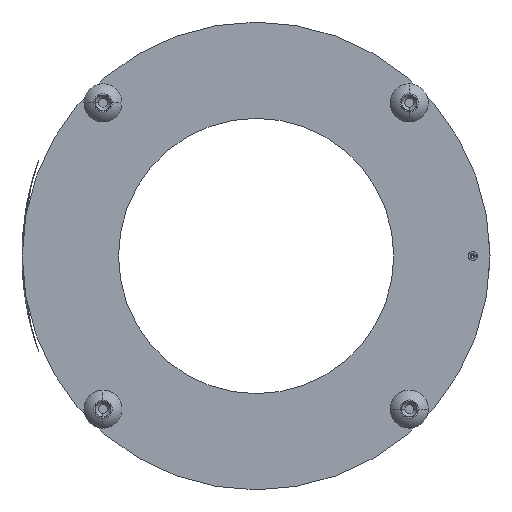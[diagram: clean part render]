
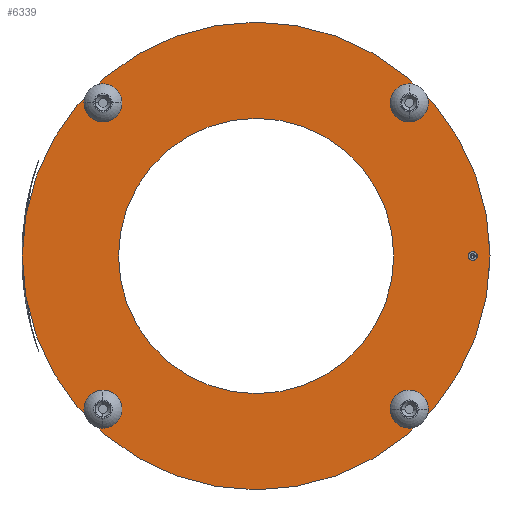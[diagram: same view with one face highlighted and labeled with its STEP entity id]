
A CAD part, front view. The second image highlights one B-rep face of the part: STEP entity #6339.
In plain terms, the highlighted planar face has unit normal (0, -1, 0).
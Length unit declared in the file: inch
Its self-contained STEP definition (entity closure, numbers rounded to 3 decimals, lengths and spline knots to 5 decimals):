
#17 = EDGE_LOOP ( 'NONE', ( #2376, #24653 ) ) ;
#132 = CARTESIAN_POINT ( 'NONE',  ( 1.20473, 0., 1.20473 ) ) ;
#343 = DIRECTION ( 'NONE',  ( 0., 0., 1. ) ) ;
#380 = DIRECTION ( 'NONE',  ( 0., 1., 0. ) ) ;
#681 = DIRECTION ( 'NONE',  ( 0., 0., 1. ) ) ;
#843 = FACE_BOUND ( 'NONE', #1786, .T. ) ;
#1023 = CIRCLE ( 'NONE', #10769, 0.035 ) ;
#1112 = VERTEX_POINT ( 'NONE', #1902 ) ;
#1281 = EDGE_CURVE ( 'NONE', #10226, #31593, #1320, .T. ) ;
#1320 = CIRCLE ( 'NONE', #5489, 0.06496 ) ;
#1659 = EDGE_CURVE ( 'NONE', #12579, #24339, #31341, .T. ) ;
#1786 = EDGE_LOOP ( 'NONE', ( #20445, #17311 ) ) ;
#1888 = CARTESIAN_POINT ( 'NONE',  ( 1.20473, 0., 1.26969 ) ) ;
#1902 = CARTESIAN_POINT ( 'NONE',  ( -1.20473, 0., -1.13977 ) ) ;
#2143 = ORIENTED_EDGE ( 'NONE', *, *, #7217, .F. ) ;
#2363 = AXIS2_PLACEMENT_3D ( 'NONE', #9667, #22170, #19403 ) ;
#2376 = ORIENTED_EDGE ( 'NONE', *, *, #4361, .T. ) ;
#2745 = VERTEX_POINT ( 'NONE', #24257 ) ;
#2972 = ORIENTED_EDGE ( 'NONE', *, *, #31825, .T. ) ;
#3062 = CIRCLE ( 'NONE', #29488, 1.84 ) ;
#3314 = AXIS2_PLACEMENT_3D ( 'NONE', #22669, #22569, #29941 ) ;
#3454 = DIRECTION ( 'NONE',  ( 0., 0., 1. ) ) ;
#3520 = FACE_BOUND ( 'NONE', #4265, .T. ) ;
#3672 = ORIENTED_EDGE ( 'NONE', *, *, #26829, .T. ) ;
#4187 = CARTESIAN_POINT ( 'NONE',  ( 1.20473, 0., 1.13977 ) ) ;
#4265 = EDGE_LOOP ( 'NONE', ( #17496, #3672 ) ) ;
#4361 = EDGE_CURVE ( 'NONE', #8643, #5671, #21711, .T. ) ;
#4721 = AXIS2_PLACEMENT_3D ( 'NONE', #13051, #25263, #681 ) ;
#4791 = DIRECTION ( 'NONE',  ( 0., -1., 0. ) ) ;
#5398 = CARTESIAN_POINT ( 'NONE',  ( -1.20473, 0., 1.20473 ) ) ;
#5424 = CIRCLE ( 'NONE', #3314, 0.06496 ) ;
#5489 = AXIS2_PLACEMENT_3D ( 'NONE', #18069, #8504, #3454 ) ;
#5662 = EDGE_CURVE ( 'NONE', #2745, #18713, #22779, .T. ) ;
#5671 = VERTEX_POINT ( 'NONE', #8939 ) ;
#5856 = EDGE_CURVE ( 'NONE', #5671, #8643, #24712, .T. ) ;
#5874 = FACE_BOUND ( 'NONE', #12513, .T. ) ;
#6281 = CARTESIAN_POINT ( 'NONE',  ( 1.70375, 0., 0.035 ) ) ;
#6339 = ADVANCED_FACE ( 'NONE', ( #843, #13151, #3520, #16225, #7399, #5874, #28925 ), #9772, .F. ) ;
#6729 = CARTESIAN_POINT ( 'NONE',  ( 1.70375, 0., -0.035 ) ) ;
#6986 = DIRECTION ( 'NONE',  ( 0., 0., 1. ) ) ;
#7217 = EDGE_CURVE ( 'NONE', #24947, #24829, #3062, .T. ) ;
#7399 = FACE_BOUND ( 'NONE', #15910, .T. ) ;
#8063 = EDGE_LOOP ( 'NONE', ( #18031, #23495 ) ) ;
#8504 = DIRECTION ( 'NONE',  ( 0., 1., 0. ) ) ;
#8643 = VERTEX_POINT ( 'NONE', #19396 ) ;
#8939 = CARTESIAN_POINT ( 'NONE',  ( -1.20473, 0., 1.13977 ) ) ;
#9268 = DIRECTION ( 'NONE',  ( 0., 0., 1. ) ) ;
#9300 = CIRCLE ( 'NONE', #15775, 1.083 ) ;
#9397 = EDGE_CURVE ( 'NONE', #24829, #24947, #14257, .T. ) ;
#9496 = CARTESIAN_POINT ( 'NONE',  ( 1.70375, 0., 0. ) ) ;
#9667 = CARTESIAN_POINT ( 'NONE',  ( 0., 0., 0. ) ) ;
#9769 = EDGE_CURVE ( 'NONE', #1112, #31562, #12343, .T. ) ;
#9772 = PLANE ( 'NONE',  #2363 ) ;
#10076 = CIRCLE ( 'NONE', #28735, 0.035 ) ;
#10226 = VERTEX_POINT ( 'NONE', #1888 ) ;
#10323 = AXIS2_PLACEMENT_3D ( 'NONE', #5398, #12693, #25108 ) ;
#10754 = AXIS2_PLACEMENT_3D ( 'NONE', #11644, #28833, #9268 ) ;
#10769 = AXIS2_PLACEMENT_3D ( 'NONE', #29283, #4791, #21618 ) ;
#11644 = CARTESIAN_POINT ( 'NONE',  ( 1.20473, 0., -1.20473 ) ) ;
#11727 = DIRECTION ( 'NONE',  ( 0., 0., 1. ) ) ;
#12077 = DIRECTION ( 'NONE',  ( 0., -1., 0. ) ) ;
#12343 = CIRCLE ( 'NONE', #30574, 0.06496 ) ;
#12513 = EDGE_LOOP ( 'NONE', ( #2972, #17300 ) ) ;
#12579 = VERTEX_POINT ( 'NONE', #12745 ) ;
#12693 = DIRECTION ( 'NONE',  ( 0., 1., 0. ) ) ;
#12745 = CARTESIAN_POINT ( 'NONE',  ( 0., 0., -1.083 ) ) ;
#13051 = CARTESIAN_POINT ( 'NONE',  ( -1.20473, 0., 1.20473 ) ) ;
#13151 = FACE_BOUND ( 'NONE', #17, .T. ) ;
#13543 = EDGE_CURVE ( 'NONE', #18713, #2745, #13855, .T. ) ;
#13646 = AXIS2_PLACEMENT_3D ( 'NONE', #132, #27086, #343 ) ;
#13855 = CIRCLE ( 'NONE', #25070, 0.06496 ) ;
#14180 = DIRECTION ( 'NONE',  ( 0., 1., 0. ) ) ;
#14257 = CIRCLE ( 'NONE', #20625, 1.84 ) ;
#14499 = DIRECTION ( 'NONE',  ( 0., 1., 0. ) ) ;
#14574 = ORIENTED_EDGE ( 'NONE', *, *, #17663, .T. ) ;
#15211 = VERTEX_POINT ( 'NONE', #6281 ) ;
#15681 = DIRECTION ( 'NONE',  ( 0., 0., 1. ) ) ;
#15775 = AXIS2_PLACEMENT_3D ( 'NONE', #29843, #380, #20015 ) ;
#15800 = EDGE_CURVE ( 'NONE', #15211, #27522, #1023, .T. ) ;
#15910 = EDGE_LOOP ( 'NONE', ( #20111, #14574 ) ) ;
#16225 = FACE_BOUND ( 'NONE', #8063, .T. ) ;
#16739 = CARTESIAN_POINT ( 'NONE',  ( 0., 0., 1.84 ) ) ;
#16827 = CARTESIAN_POINT ( 'NONE',  ( -1.20473, 0., -1.26969 ) ) ;
#16976 = CARTESIAN_POINT ( 'NONE',  ( 0., 0., 0. ) ) ;
#17300 = ORIENTED_EDGE ( 'NONE', *, *, #1659, .T. ) ;
#17311 = ORIENTED_EDGE ( 'NONE', *, *, #15800, .F. ) ;
#17496 = ORIENTED_EDGE ( 'NONE', *, *, #9769, .T. ) ;
#17651 = ORIENTED_EDGE ( 'NONE', *, *, #9397, .F. ) ;
#17663 = EDGE_CURVE ( 'NONE', #31593, #10226, #22787, .T. ) ;
#18031 = ORIENTED_EDGE ( 'NONE', *, *, #5662, .T. ) ;
#18069 = CARTESIAN_POINT ( 'NONE',  ( 1.20473, 0., 1.20473 ) ) ;
#18502 = CARTESIAN_POINT ( 'NONE',  ( 0., 0., 0. ) ) ;
#18713 = VERTEX_POINT ( 'NONE', #21063 ) ;
#18808 = CARTESIAN_POINT ( 'NONE',  ( 0., 0., -1.84 ) ) ;
#18837 = EDGE_CURVE ( 'NONE', #27522, #15211, #10076, .T. ) ;
#19052 = CARTESIAN_POINT ( 'NONE',  ( 0., 0., 1.083 ) ) ;
#19396 = CARTESIAN_POINT ( 'NONE',  ( -1.20473, 0., 1.26969 ) ) ;
#19403 = DIRECTION ( 'NONE',  ( 0., 0., 1. ) ) ;
#19459 = DIRECTION ( 'NONE',  ( 0., 0., -1. ) ) ;
#20015 = DIRECTION ( 'NONE',  ( 0., 0., 1. ) ) ;
#20111 = ORIENTED_EDGE ( 'NONE', *, *, #1281, .T. ) ;
#20445 = ORIENTED_EDGE ( 'NONE', *, *, #18837, .F. ) ;
#20625 = AXIS2_PLACEMENT_3D ( 'NONE', #18502, #25443, #15681 ) ;
#21063 = CARTESIAN_POINT ( 'NONE',  ( 1.20473, 0., -1.26969 ) ) ;
#21618 = DIRECTION ( 'NONE',  ( 0., 0., -1. ) ) ;
#21711 = CIRCLE ( 'NONE', #4721, 0.06496 ) ;
#21961 = DIRECTION ( 'NONE',  ( 0., 1., 0. ) ) ;
#22170 = DIRECTION ( 'NONE',  ( 0., 1., 0. ) ) ;
#22569 = DIRECTION ( 'NONE',  ( 0., 1., 0. ) ) ;
#22669 = CARTESIAN_POINT ( 'NONE',  ( -1.20473, 0., -1.20473 ) ) ;
#22779 = CIRCLE ( 'NONE', #10754, 0.06496 ) ;
#22787 = CIRCLE ( 'NONE', #13646, 0.06496 ) ;
#23495 = ORIENTED_EDGE ( 'NONE', *, *, #13543, .T. ) ;
#24257 = CARTESIAN_POINT ( 'NONE',  ( 1.20473, 0., -1.13977 ) ) ;
#24339 = VERTEX_POINT ( 'NONE', #19052 ) ;
#24653 = ORIENTED_EDGE ( 'NONE', *, *, #5856, .T. ) ;
#24712 = CIRCLE ( 'NONE', #10323, 0.06496 ) ;
#24829 = VERTEX_POINT ( 'NONE', #18808 ) ;
#24947 = VERTEX_POINT ( 'NONE', #16739 ) ;
#25070 = AXIS2_PLACEMENT_3D ( 'NONE', #30146, #25251, #27957 ) ;
#25108 = DIRECTION ( 'NONE',  ( 0., 0., 1. ) ) ;
#25251 = DIRECTION ( 'NONE',  ( 0., 1., 0. ) ) ;
#25263 = DIRECTION ( 'NONE',  ( 0., 1., 0. ) ) ;
#25443 = DIRECTION ( 'NONE',  ( 0., 1., 0. ) ) ;
#26699 = CARTESIAN_POINT ( 'NONE',  ( 0., 0., 0. ) ) ;
#26829 = EDGE_CURVE ( 'NONE', #31562, #1112, #5424, .T. ) ;
#26967 = EDGE_LOOP ( 'NONE', ( #17651, #2143 ) ) ;
#27086 = DIRECTION ( 'NONE',  ( 0., 1., 0. ) ) ;
#27522 = VERTEX_POINT ( 'NONE', #6729 ) ;
#27957 = DIRECTION ( 'NONE',  ( 0., 0., 1. ) ) ;
#28735 = AXIS2_PLACEMENT_3D ( 'NONE', #9496, #12077, #19459 ) ;
#28833 = DIRECTION ( 'NONE',  ( 0., 1., 0. ) ) ;
#28925 = FACE_OUTER_BOUND ( 'NONE', #26967, .T. ) ;
#28965 = AXIS2_PLACEMENT_3D ( 'NONE', #16976, #14499, #31523 ) ;
#29236 = CARTESIAN_POINT ( 'NONE',  ( -1.20473, 0., -1.20473 ) ) ;
#29283 = CARTESIAN_POINT ( 'NONE',  ( 1.70375, 0., 0. ) ) ;
#29488 = AXIS2_PLACEMENT_3D ( 'NONE', #26699, #21961, #6986 ) ;
#29843 = CARTESIAN_POINT ( 'NONE',  ( 0., 0., 0. ) ) ;
#29941 = DIRECTION ( 'NONE',  ( 0., 0., 1. ) ) ;
#30146 = CARTESIAN_POINT ( 'NONE',  ( 1.20473, 0., -1.20473 ) ) ;
#30574 = AXIS2_PLACEMENT_3D ( 'NONE', #29236, #14180, #11727 ) ;
#31341 = CIRCLE ( 'NONE', #28965, 1.083 ) ;
#31523 = DIRECTION ( 'NONE',  ( 0., 0., 1. ) ) ;
#31562 = VERTEX_POINT ( 'NONE', #16827 ) ;
#31593 = VERTEX_POINT ( 'NONE', #4187 ) ;
#31825 = EDGE_CURVE ( 'NONE', #24339, #12579, #9300, .T. ) ;
